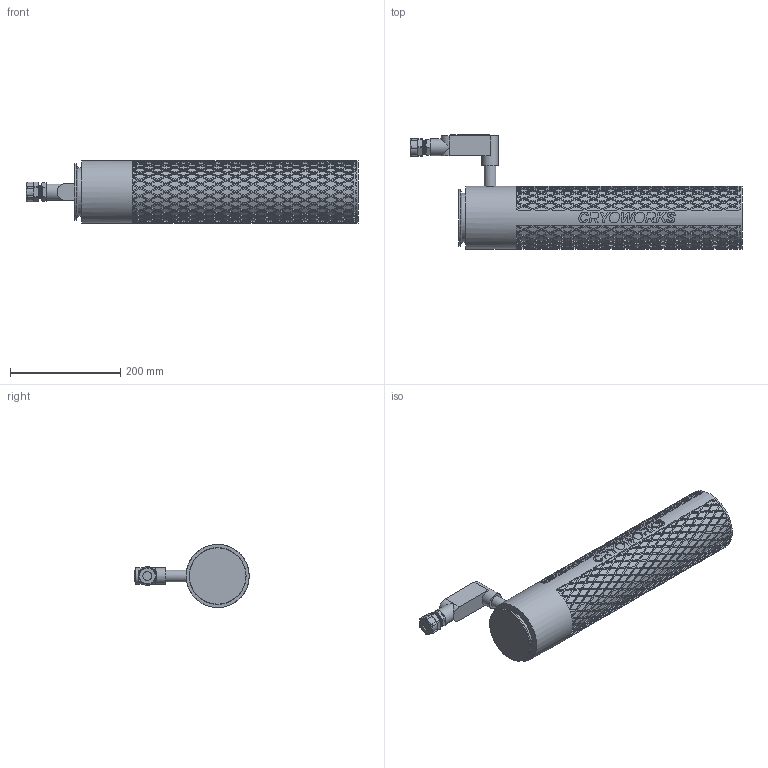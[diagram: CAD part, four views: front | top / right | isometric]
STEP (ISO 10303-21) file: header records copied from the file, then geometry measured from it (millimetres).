
FILE_DESCRIPTION (( 'STEP AP203' ), '1' );
FILE_NAME ('CA03150-TF & CA03155-TF REV A.STEP', '2026-02-09T20:45:38', ( '' ), ( '' ), 'SwSTEP 2.0', 'SolidWorks 2023', '' );
FILE_SCHEMA (( 'CONFIG_CONTROL_DESIGN' ));
Length unit declared in the file: inch
Products named in the file (1): CA03150-TF & CA03155-TF REV A
Bounding box: 602.51 x 207.39 x 114.3 mm (x, y, z)
Volume: 5219668.3 mm3; surface area: 310820 mm2
Topology: 1 solids, 2 shells, 3216 faces, 7849 edges, 5216 vertices
Faces by surface type: plane 2442, cylinder 639, bspline 114, cone 14, sphere 4, torus 3
Full cylindrical faces by diameter (mm): 16.002 x1, 16.475 x1, 18.143 x1, 18.979 x6, 21.336 x2, 23.043 x2, 26.67 x1, 30.226 x2, 88.9 x1, 103.175 x1, 114.3 x1
Entity records: 107381 total; most frequent: CARTESIAN_POINT 46155, ORIENTED_EDGE 15506, DIRECTION 9362, EDGE_CURVE 7753, VERTEX_POINT 5165, EDGE_LOOP 3822, AXIS2_PLACEMENT_3D 3289, FACE_OUTER_BOUND 3222
